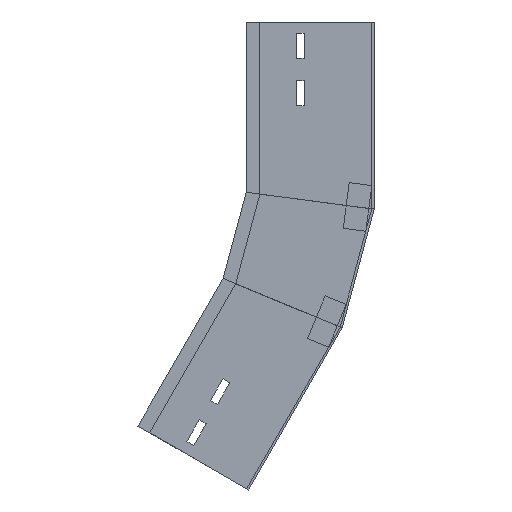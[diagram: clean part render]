
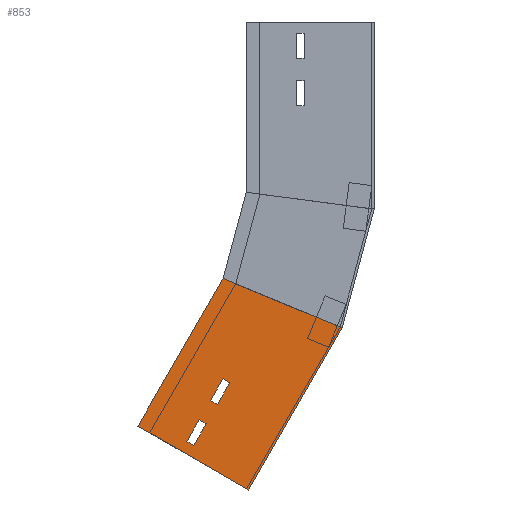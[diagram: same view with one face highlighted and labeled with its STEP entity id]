
A CAD part, left-side view. The second image highlights one B-rep face of the part: STEP entity #853.
In plain terms, the highlighted planar face has unit normal (-1, 0, 0) as drawn and (1, 0, 0) by its records, which use the part's own axes.
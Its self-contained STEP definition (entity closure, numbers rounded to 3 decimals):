
#5 = EDGE_LOOP ( 'NONE', ( #1015, #1401, #1373, #9 ) ) ;
#7 = EDGE_LOOP ( 'NONE', ( #509, #947, #1040, #1259 ) ) ;
#9 = ORIENTED_EDGE ( 'NONE', *, *, #511, .T. ) ;
#11 = LINE ( 'NONE', #367, #622 ) ;
#16 = EDGE_CURVE ( 'NONE', #549, #212, #11, .T. ) ;
#67 = VERTEX_POINT ( 'NONE', #770 ) ;
#76 = VECTOR ( 'NONE', #1176, 1000. ) ;
#82 = DIRECTION ( 'NONE',  ( 0., 0., -1. ) ) ;
#116 = LINE ( 'NONE', #1492, #1277 ) ;
#121 = CARTESIAN_POINT ( 'NONE',  ( 0., 68.5, -9.835 ) ) ;
#168 = VERTEX_POINT ( 'NONE', #1256 ) ;
#176 = AXIS2_PLACEMENT_3D ( 'NONE', #387, #935, #499 ) ;
#191 = DIRECTION ( 'NONE',  ( 0., 0., -1. ) ) ;
#195 = CARTESIAN_POINT ( 'NONE',  ( 0., 61.5, -9.835 ) ) ;
#200 = VERTEX_POINT ( 'NONE', #727 ) ;
#204 = EDGE_CURVE ( 'NONE', #67, #491, #1177, .T. ) ;
#212 = VERTEX_POINT ( 'NONE', #1078 ) ;
#217 = CARTESIAN_POINT ( 'NONE',  ( 0., 68.5, -73.505 ) ) ;
#225 = FACE_BOUND ( 'NONE', #5, .T. ) ;
#240 = EDGE_CURVE ( 'NONE', #612, #200, #320, .T. ) ;
#254 = ORIENTED_EDGE ( 'NONE', *, *, #1479, .T. ) ;
#291 = DIRECTION ( 'NONE',  ( 0., -0.991, -0.131 ) ) ;
#319 = CARTESIAN_POINT ( 'NONE',  ( 0., 68.5, -9.835 ) ) ;
#320 = LINE ( 'NONE', #1236, #864 ) ;
#327 = EDGE_CURVE ( 'NONE', #435, #1239, #116, .T. ) ;
#339 = DIRECTION ( 'NONE',  ( 0., -1., 0. ) ) ;
#340 = DIRECTION ( 'NONE',  ( 0., 0., 1. ) ) ;
#367 = CARTESIAN_POINT ( 'NONE',  ( 0., 0., 0. ) ) ;
#387 = CARTESIAN_POINT ( 'NONE',  ( 0., 0., 0. ) ) ;
#397 = LINE ( 'NONE', #1009, #1257 ) ;
#426 = CARTESIAN_POINT ( 'NONE',  ( 0., 0., 0. ) ) ;
#435 = VERTEX_POINT ( 'NONE', #1251 ) ;
#460 = LINE ( 'NONE', #121, #1118 ) ;
#474 = DIRECTION ( 'NONE',  ( 0., 1., 0. ) ) ;
#483 = ORIENTED_EDGE ( 'NONE', *, *, #1334, .T. ) ;
#487 = CARTESIAN_POINT ( 'NONE',  ( 0., 68.5, -31.835 ) ) ;
#491 = VERTEX_POINT ( 'NONE', #990 ) ;
#499 = DIRECTION ( 'NONE',  ( 0., 0., 1. ) ) ;
#509 = ORIENTED_EDGE ( 'NONE', *, *, #618, .F. ) ;
#511 = EDGE_CURVE ( 'NONE', #200, #435, #559, .T. ) ;
#549 = VERTEX_POINT ( 'NONE', #1255 ) ;
#559 = LINE ( 'NONE', #195, #687 ) ;
#587 = VECTOR ( 'NONE', #291, 1000. ) ;
#597 = PLANE ( 'NONE',  #176 ) ;
#612 = VERTEX_POINT ( 'NONE', #487 ) ;
#614 = VECTOR ( 'NONE', #1136, 1000. ) ;
#617 = EDGE_LOOP ( 'NONE', ( #710, #254, #483, #1384 ) ) ;
#618 = EDGE_CURVE ( 'NONE', #212, #67, #1065, .T. ) ;
#621 = CARTESIAN_POINT ( 'NONE',  ( 0., 21.301, -161.796 ) ) ;
#622 = VECTOR ( 'NONE', #1389, 1000. ) ;
#642 = LINE ( 'NONE', #891, #1371 ) ;
#687 = VECTOR ( 'NONE', #340, 1000. ) ;
#710 = ORIENTED_EDGE ( 'NONE', *, *, #1390, .T. ) ;
#714 = DIRECTION ( 'NONE',  ( 0., 0., 1. ) ) ;
#720 = EDGE_CURVE ( 'NONE', #549, #491, #1346, .T. ) ;
#727 = CARTESIAN_POINT ( 'NONE',  ( 0., 61.5, -31.835 ) ) ;
#732 = CARTESIAN_POINT ( 'NONE',  ( 0., 68.5, -73.505 ) ) ;
#770 = CARTESIAN_POINT ( 'NONE',  ( 0., 112.5, -149.789 ) ) ;
#799 = FACE_BOUND ( 'NONE', #617, .T. ) ;
#820 = EDGE_CURVE ( 'NONE', #1239, #612, #460, .T. ) ;
#823 = VERTEX_POINT ( 'NONE', #1114 ) ;
#842 = VECTOR ( 'NONE', #1246, 1000. ) ;
#843 = VECTOR ( 'NONE', #714, 1000. ) ;
#853 = ADVANCED_FACE ( 'NONE', ( #799, #1250, #225 ), #597, .F. ) ;
#864 = VECTOR ( 'NONE', #339, 1000. ) ;
#891 = CARTESIAN_POINT ( 'NONE',  ( 0., 68.5, -51.505 ) ) ;
#935 = DIRECTION ( 'NONE',  ( -1., 0., 0. ) ) ;
#947 = ORIENTED_EDGE ( 'NONE', *, *, #16, .F. ) ;
#955 = CARTESIAN_POINT ( 'NONE',  ( 0., 68.5, -51.505 ) ) ;
#966 = LINE ( 'NONE', #1420, #843 ) ;
#990 = CARTESIAN_POINT ( 'NONE',  ( 0., 0., -164.6 ) ) ;
#1009 = CARTESIAN_POINT ( 'NONE',  ( 0., 68.5, -51.505 ) ) ;
#1015 = ORIENTED_EDGE ( 'NONE', *, *, #327, .T. ) ;
#1040 = ORIENTED_EDGE ( 'NONE', *, *, #720, .T. ) ;
#1065 = LINE ( 'NONE', #1404, #76 ) ;
#1078 = CARTESIAN_POINT ( 'NONE',  ( 0., 112.5, 0. ) ) ;
#1114 = CARTESIAN_POINT ( 'NONE',  ( 0., 61.5, -51.505 ) ) ;
#1118 = VECTOR ( 'NONE', #82, 1000. ) ;
#1136 = DIRECTION ( 'NONE',  ( 0., -1., 0. ) ) ;
#1155 = EDGE_CURVE ( 'NONE', #168, #823, #966, .T. ) ;
#1173 = VERTEX_POINT ( 'NONE', #732 ) ;
#1176 = DIRECTION ( 'NONE',  ( 0., 0., -1. ) ) ;
#1177 = LINE ( 'NONE', #621, #587 ) ;
#1236 = CARTESIAN_POINT ( 'NONE',  ( 0., 68.5, -31.835 ) ) ;
#1239 = VERTEX_POINT ( 'NONE', #319 ) ;
#1244 = LINE ( 'NONE', #217, #614 ) ;
#1246 = DIRECTION ( 'NONE',  ( 0., 0., -1. ) ) ;
#1250 = FACE_OUTER_BOUND ( 'NONE', #7, .T. ) ;
#1251 = CARTESIAN_POINT ( 'NONE',  ( 0., 61.5, -9.835 ) ) ;
#1255 = CARTESIAN_POINT ( 'NONE',  ( 0., 0., 0. ) ) ;
#1256 = CARTESIAN_POINT ( 'NONE',  ( 0., 61.5, -73.505 ) ) ;
#1257 = VECTOR ( 'NONE', #191, 1000. ) ;
#1259 = ORIENTED_EDGE ( 'NONE', *, *, #204, .F. ) ;
#1277 = VECTOR ( 'NONE', #474, 1000. ) ;
#1334 = EDGE_CURVE ( 'NONE', #1173, #168, #1244, .T. ) ;
#1337 = DIRECTION ( 'NONE',  ( 0., 1., 0. ) ) ;
#1346 = LINE ( 'NONE', #426, #842 ) ;
#1371 = VECTOR ( 'NONE', #1337, 1000. ) ;
#1373 = ORIENTED_EDGE ( 'NONE', *, *, #240, .T. ) ;
#1384 = ORIENTED_EDGE ( 'NONE', *, *, #1155, .T. ) ;
#1389 = DIRECTION ( 'NONE',  ( 0., 1., 0. ) ) ;
#1390 = EDGE_CURVE ( 'NONE', #823, #1473, #642, .T. ) ;
#1401 = ORIENTED_EDGE ( 'NONE', *, *, #820, .T. ) ;
#1404 = CARTESIAN_POINT ( 'NONE',  ( 0., 112.5, 0. ) ) ;
#1420 = CARTESIAN_POINT ( 'NONE',  ( 0., 61.5, -51.505 ) ) ;
#1473 = VERTEX_POINT ( 'NONE', #955 ) ;
#1479 = EDGE_CURVE ( 'NONE', #1473, #1173, #397, .T. ) ;
#1492 = CARTESIAN_POINT ( 'NONE',  ( 0., 68.5, -9.835 ) ) ;
